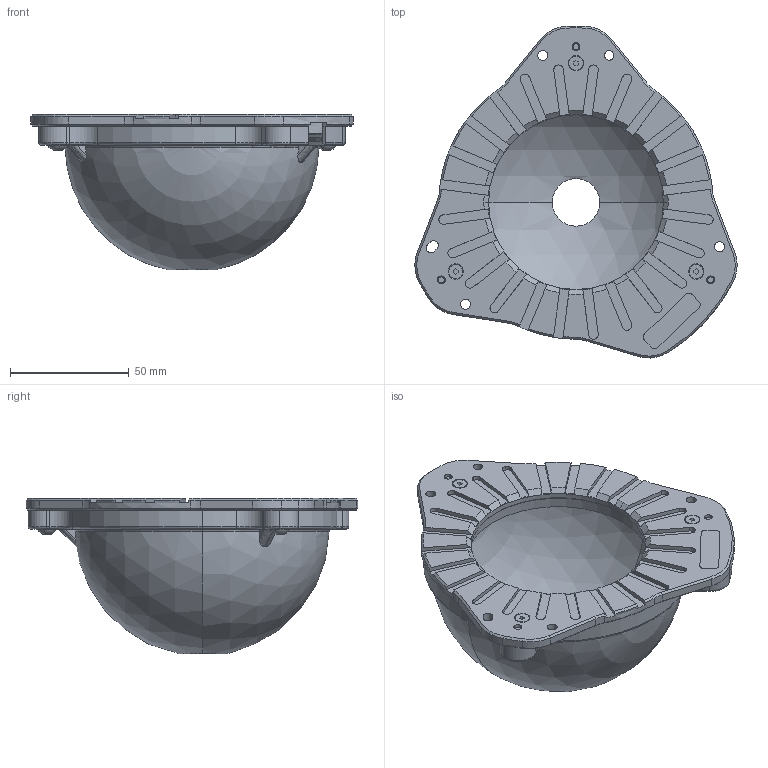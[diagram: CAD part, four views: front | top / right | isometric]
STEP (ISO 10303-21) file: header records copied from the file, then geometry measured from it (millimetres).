
FILE_DESCRIPTION (( 'STEP AP214' ), '1' );
FILE_NAME ('SDOME80.STEP', '2012-08-13T08:13:04', ( ' ' ), ( '' ), 'SwSTEP 2.0', 'SolidWorks 2009', '' );
FILE_SCHEMA (( 'AUTOMOTIVE_DESIGN' ));
Length unit declared in the file: millimetre
Products named in the file (1): SDOME80
Bounding box: 135.75 x 139.84 x 65.56 mm (x, y, z)
Volume: 87114.7 mm3; surface area: 102296.8 mm2
Topology: 11 solids, 11 shells, 1009 faces, 2561 edges, 1648 vertices
Faces by surface type: plane 587, cylinder 258, cone 116, torus 26, bspline 12, sphere 10
Entity records: 42248 total; most frequent: CARTESIAN_POINT 6314, DIRECTION 5208, ORIENTED_EDGE 5098, EDGE_CURVE 2549, AXIS2_PLACEMENT_3D 1782, VERTEX_POINT 1648, VECTOR 1644, LINE 1644
